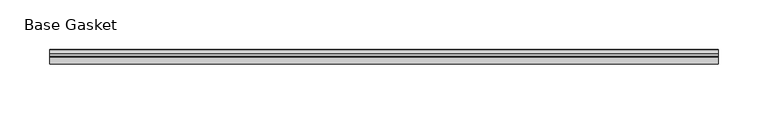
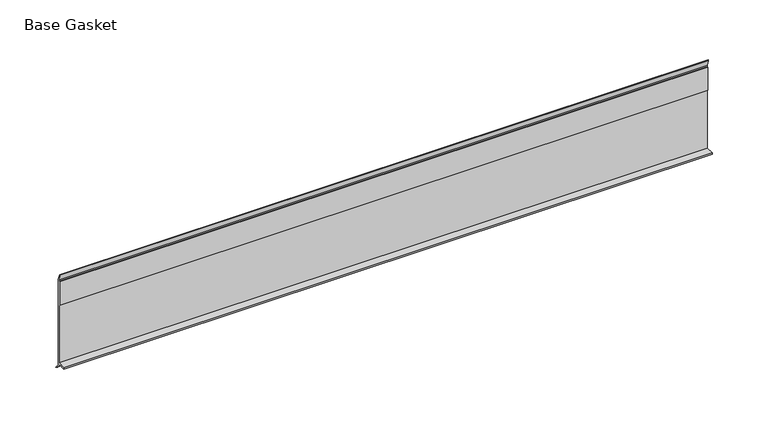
"""IFC4 building model written with IfcOpenShell, lengths in millimetres: furniture geometry, Gasket-Teknion-FHGB-AI_Healthcare-R2021 : Base Gasket."""

from ifc_helpers import new_model, si_unit, frame, origin, place, context, project, spatial, polyline, outline, extrude, source, transform, mapped, element, save


def base_gasket_cc0168f6(model_context):
    return source(origin(), model_context, "Body", "SweptSolid", [
        extrude(outline(polyline([(3.7283812, 98.4568417), (3.7283812, 4.3498477), (7.4222115, 0.6560174), (7.8482342, 0.0), (6.8281054, 0.3520979), (2.2043812, 4.3498477), (2.1334222, 6.3818476), (-6.2405171, 6.3818476), (-6.2405171, 7.9398773), (2.2043812, 7.9398773), (2.2043812, 71.4693447), (1.4106313, 71.4693447), (1.4106313, 96.8693477), (2.2043812, 96.8693477), (2.2043812, 98.4568417), (0.6755308, 104.4162708), (0.6755308, 105.2002997), (1.1891543, 104.587663), (3.7283812, 98.4568417)])), frame((-1527.8982117, 0.0, 0.0), z_axis=(1.0, 0.0, 0.0), x_axis=(0.0, 1.0, 0.0)), (0.0, 0.0, 1.0), 668.6798568),
    ])


if __name__ == "__main__":
    model = new_model("IFC4")
    model_context = context("Model", 3, world=origin())
    ifc_project = project(units=[si_unit("LENGTHUNIT", "METRE", prefix="MILLI")], contexts=[model_context])
    site = spatial("IfcSite", under=ifc_project)
    building = spatial("IfcBuilding", under=site)
    placement = place(None, origin())
    base_gasket_shape = base_gasket_cc0168f6(model_context)
    element("IfcFurniture", 1, ObjectType="Gasket-Teknion-FHGB-AI_Healthcare-R2021 : Base Gasket", at=placement, inside=building, context=model_context, shape_type="MappedRepresentation", body=[
        mapped(base_gasket_shape, transform((0.0, 0.0, 0.0), x_axis=(1.0, 0.0, 0.0), y_axis=(0.0, 1.0, 0.0), z_axis=(0.0, 0.0, 1.0))),
    ])
    save(model, "model.ifc")
